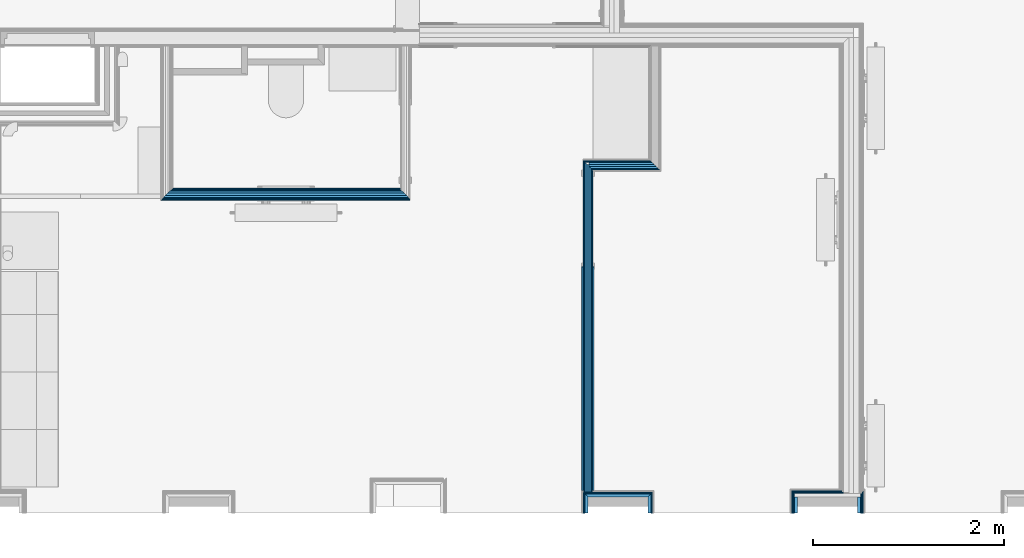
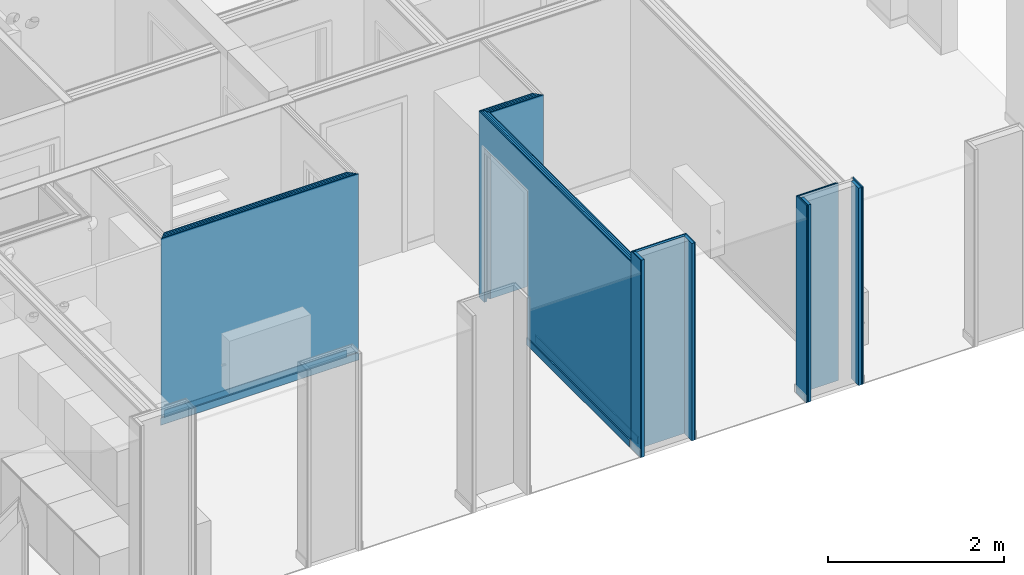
# One storey, part 19 of 82: 33 building element parts, 2 openings, 9 elements without a shape of their own.
"""IFC2X3 building model written with IfcOpenShell, lengths in metres."""

from ifc_helpers import new_model, entity, si_unit, converted_unit, derived_unit, money_unit, direction, frame, frame_2d, origin_with_axes, place, context, subcontext, project, spatial, polyline, rectangle, outline, extrude, material, type_object, element, aggregate, save


model = new_model("IFC2X3")

# Units and contexts
model_context = context("Model", 3, precision=1e-05, world=origin_with_axes(), true_north=direction((0.0, 1.0)))
body_context = subcontext(model_context, "Body", "Model", "MODEL_VIEW", scale=1.0)
ifc_project = project(units=[si_unit("LENGTHUNIT", "METRE"), si_unit("AREAUNIT", "SQUARE_METRE"), si_unit("VOLUMEUNIT", "CUBIC_METRE"), si_unit("ABSORBEDDOSEUNIT", "GRAY"), si_unit("AMOUNTOFSUBSTANCEUNIT", "MOLE"), si_unit("DOSEEQUIVALENTUNIT", "SIEVERT"), si_unit("ELECTRICCAPACITANCEUNIT", "FARAD"), si_unit("ELECTRICCHARGEUNIT", "COULOMB"), si_unit("ELECTRICCONDUCTANCEUNIT", "SIEMENS"), si_unit("ELECTRICCURRENTUNIT", "AMPERE"), si_unit("ELECTRICRESISTANCEUNIT", "OHM"), si_unit("ELECTRICVOLTAGEUNIT", "VOLT"), si_unit("ENERGYUNIT", "JOULE"), si_unit("FORCEUNIT", "NEWTON"), si_unit("FREQUENCYUNIT", "HERTZ"), si_unit("ILLUMINANCEUNIT", "LUX"), si_unit("INDUCTANCEUNIT", "HENRY"), si_unit("LUMINOUSFLUXUNIT", "LUMEN"), si_unit("LUMINOUSINTENSITYUNIT", "CANDELA"), si_unit("MAGNETICFLUXDENSITYUNIT", "TESLA"), si_unit("MAGNETICFLUXUNIT", "WEBER"), si_unit("MASSUNIT", "GRAM"), converted_unit("PLANEANGLEUNIT", "degree", entity("IfcReal", 0.0174532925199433), si_unit("PLANEANGLEUNIT", "RADIAN"), dimensions=[0, 0, 0, 0, 0, 0, 0]), si_unit("POWERUNIT", "WATT"), si_unit("PRESSUREUNIT", "PASCAL"), si_unit("RADIOACTIVITYUNIT", "BECQUEREL"), si_unit("SOLIDANGLEUNIT", "STERADIAN"), si_unit("THERMODYNAMICTEMPERATUREUNIT", "KELVIN"), si_unit("TIMEUNIT", "SECOND"), derived_unit("ACCELERATIONUNIT", [(si_unit("LENGTHUNIT", "METRE"), 1), (si_unit("TIMEUNIT", "SECOND"), -2)]), derived_unit("ANGULARVELOCITYUNIT", [(converted_unit("PLANEANGLEUNIT", "degree", entity("IfcReal", 0.0174532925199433), si_unit("PLANEANGLEUNIT", "RADIAN"), dimensions=[0, 0, 0, 0, 0, 0, 0]), 1), (si_unit("TIMEUNIT", "SECOND"), -1)]), derived_unit("CURVATUREUNIT", [(converted_unit("PLANEANGLEUNIT", "degree", entity("IfcReal", 0.0174532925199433), si_unit("PLANEANGLEUNIT", "RADIAN"), dimensions=[0, 0, 0, 0, 0, 0, 0]), 1), (si_unit("LENGTHUNIT", "METRE"), -1)]), derived_unit("DYNAMICVISCOSITYUNIT", [(si_unit("PRESSUREUNIT", "PASCAL"), 1), (si_unit("TIMEUNIT", "SECOND"), 1)]), derived_unit("HEATFLUXDENSITYUNIT", [(si_unit("POWERUNIT", "WATT"), 1), (si_unit("LENGTHUNIT", "METRE"), -2)]), derived_unit("HEATINGVALUEUNIT", [(si_unit("ENERGYUNIT", "JOULE"), 1), (si_unit("MASSUNIT", "GRAM"), -1)]), derived_unit("INTEGERCOUNTRATEUNIT", [(si_unit("TIMEUNIT", "SECOND"), -1)]), derived_unit("IONCONCENTRATIONUNIT", [(si_unit("MASSUNIT", "GRAM"), 1), (si_unit("VOLUMEUNIT", "CUBIC_METRE"), -1)]), derived_unit("ISOTHERMALMOISTURECAPACITYUNIT", [(si_unit("VOLUMEUNIT", "CUBIC_METRE"), 1), (si_unit("MASSUNIT", "GRAM"), -1)]), derived_unit("KINEMATICVISCOSITYUNIT", [(si_unit("AREAUNIT", "SQUARE_METRE"), 1), (si_unit("TIMEUNIT", "SECOND"), -1)]), derived_unit("LINEARFORCEUNIT", [(si_unit("FORCEUNIT", "NEWTON"), 1), (si_unit("LENGTHUNIT", "METRE"), -1)]), derived_unit("LINEARMOMENTUNIT", [(si_unit("FORCEUNIT", "NEWTON"), 1), (si_unit("LENGTHUNIT", "METRE"), -1)]), derived_unit("LINEARSTIFFNESSUNIT", [(si_unit("FORCEUNIT", "NEWTON"), 1), (si_unit("LENGTHUNIT", "METRE"), -1)]), derived_unit("LINEARVELOCITYUNIT", [(si_unit("LENGTHUNIT", "METRE"), 1), (si_unit("TIMEUNIT", "SECOND"), -1)]), derived_unit("LUMINOUSINTENSITYDISTRIBUTIONUNIT", [(si_unit("LUMINOUSINTENSITYUNIT", "CANDELA"), 1), (si_unit("LUMINOUSFLUXUNIT", "LUMEN"), -1)]), derived_unit("MASSDENSITYUNIT", [(si_unit("MASSUNIT", "GRAM"), 1), (si_unit("VOLUMEUNIT", "CUBIC_METRE"), -1)]), derived_unit("MASSFLOWRATEUNIT", [(si_unit("MASSUNIT", "GRAM"), 1), (si_unit("TIMEUNIT", "SECOND"), -1)]), derived_unit("MASSPERLENGTHUNIT", [(si_unit("MASSUNIT", "GRAM"), 1), (si_unit("LENGTHUNIT", "METRE"), -1)]), derived_unit("MODULUSOFELASTICITYUNIT", [(si_unit("FORCEUNIT", "NEWTON"), 1), (si_unit("AREAUNIT", "SQUARE_METRE"), -1)]), derived_unit("MODULUSOFLINEARSUBGRADEREACTIONUNIT", [(si_unit("FORCEUNIT", "NEWTON"), 1), (si_unit("LENGTHUNIT", "METRE"), -2)]), derived_unit("MODULUSOFROTATIONALSUBGRADEREACTIONUNIT", [(si_unit("FORCEUNIT", "NEWTON"), 1), (si_unit("LENGTHUNIT", "METRE"), 1)]), derived_unit("MODULUSOFSUBGRADEREACTIONUNIT", [(si_unit("FORCEUNIT", "NEWTON"), 1), (si_unit("VOLUMEUNIT", "CUBIC_METRE"), -1)]), derived_unit("MOISTUREDIFFUSIVITYUNIT", [(si_unit("VOLUMEUNIT", "CUBIC_METRE"), 1), (si_unit("TIMEUNIT", "SECOND"), -1)]), derived_unit("MOLECULARWEIGHTUNIT", [(si_unit("MASSUNIT", "GRAM"), 1), (si_unit("AMOUNTOFSUBSTANCEUNIT", "MOLE"), -1)]), derived_unit("PLANARFORCEUNIT", [(si_unit("FORCEUNIT", "NEWTON"), 1), (si_unit("LENGTHUNIT", "METRE"), -2)]), derived_unit("ROTATIONALFREQUENCYUNIT", [(si_unit("TIMEUNIT", "SECOND"), -1)]), derived_unit("ROTATIONALMASSUNIT", [(si_unit("MASSUNIT", "GRAM"), 1), (si_unit("LENGTHUNIT", "METRE"), 2)]), derived_unit("ROTATIONALSTIFFNESSUNIT", [(si_unit("FORCEUNIT", "NEWTON"), 1), (si_unit("LENGTHUNIT", "METRE"), 1), (converted_unit("PLANEANGLEUNIT", "degree", entity("IfcReal", 0.0174532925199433), si_unit("PLANEANGLEUNIT", "RADIAN"), dimensions=[0, 0, 0, 0, 0, 0, 0]), -1)]), derived_unit("SECTIONAREAINTEGRALUNIT", [(si_unit("LENGTHUNIT", "METRE"), 5)]), derived_unit("SECTIONMODULUSUNIT", [(si_unit("LENGTHUNIT", "METRE"), 3)]), derived_unit("SHEARMODULUSUNIT", [(si_unit("FORCEUNIT", "NEWTON"), 1), (si_unit("AREAUNIT", "SQUARE_METRE"), -1)]), derived_unit("SOUNDPOWERUNIT", [(si_unit("ENERGYUNIT", "JOULE"), 1), (si_unit("TIMEUNIT", "SECOND"), -1)]), derived_unit("SPECIFICHEATCAPACITYUNIT", [(si_unit("FORCEUNIT", "NEWTON"), 1), (si_unit("MASSUNIT", "GRAM"), -1), (si_unit("THERMODYNAMICTEMPERATUREUNIT", "KELVIN"), -1)]), derived_unit("TEMPERATUREGRADIENTUNIT", [(si_unit("THERMODYNAMICTEMPERATUREUNIT", "KELVIN"), 1), (si_unit("LENGTHUNIT", "METRE"), -1)]), derived_unit("THERMALADMITTANCEUNIT", [(si_unit("POWERUNIT", "WATT"), 1), (si_unit("AREAUNIT", "SQUARE_METRE"), -1), (si_unit("THERMODYNAMICTEMPERATUREUNIT", "KELVIN"), -1)]), derived_unit("THERMALCONDUCTANCEUNIT", [(si_unit("POWERUNIT", "WATT"), 1), (si_unit("LENGTHUNIT", "METRE"), -1), (si_unit("THERMODYNAMICTEMPERATUREUNIT", "KELVIN"), -1)]), derived_unit("THERMALEXPANSIONCOEFFICIENTUNIT", [(si_unit("THERMODYNAMICTEMPERATUREUNIT", "KELVIN"), -1)]), derived_unit("THERMALRESISTANCEUNIT", [(si_unit("AREAUNIT", "SQUARE_METRE"), 1), (si_unit("POWERUNIT", "WATT"), -1)]), derived_unit("THERMALTRANSMITTANCEUNIT", [(si_unit("POWERUNIT", "WATT"), 1), (si_unit("AREAUNIT", "SQUARE_METRE"), -1), (si_unit("THERMODYNAMICTEMPERATUREUNIT", "KELVIN"), -1)]), derived_unit("TORQUEUNIT", [(si_unit("FORCEUNIT", "NEWTON"), 1), (si_unit("LENGTHUNIT", "METRE"), 1)]), derived_unit("VAPORPERMEABILITYUNIT", [(si_unit("MASSUNIT", "GRAM"), 1), (si_unit("TIMEUNIT", "SECOND"), -1)]), derived_unit("VOLUMETRICFLOWRATEUNIT", [(si_unit("VOLUMEUNIT", "CUBIC_METRE"), 1), (si_unit("TIMEUNIT", "SECOND"), -1)]), derived_unit("WARPINGCONSTANTUNIT", [(si_unit("LENGTHUNIT", "METRE"), 6)]), derived_unit("WARPINGMOMENTUNIT", [(si_unit("FORCEUNIT", "NEWTON"), 1), (si_unit("LENGTHUNIT", "METRE"), 2)]), money_unit("GBP")], contexts=[model_context])

# Site, building, storey
site_placement = place(None, origin_with_axes())
site = spatial("IfcSite", under=ifc_project, at=site_placement, Name="Site", CompositionType="ELEMENT")
building_placement = place(site_placement, origin_with_axes())
building = spatial("IfcBuilding", under=site, at=building_placement, Name="Building01", CompositionType="ELEMENT")
storey_placement = place(building_placement, frame((0.0, 0.0, 12.13), z_axis=(0.0, 0.0, 1.0), x_axis=(1.0, 0.0, 0.0)))
storey = spatial("IfcBuildingStorey", under=building, at=storey_placement, Name="3F", CompositionType="ELEMENT", Elevation=12.13)

# Wall, building element parts
wall_type_1 = type_object("IfcWallType", Name="SHE_A-Walls_Type06d_ExternalWallInsulation_48mm", PredefinedType="NOTDEFINED")
wall_1_placement = place(storey_placement, frame((19.763, 0.1, 0.0), z_axis=(0.0, 0.0, 1.0), x_axis=(0.0, 1.0, 0.0)))
wall_1 = element("IfcWall", 1, at=wall_1_placement, inside=storey, type_object=wall_type_1, Name="6D", ObjectType="SHE_A-Walls_Type06d_ExternalWallInsulation_48mm")
ifc_material_1 = material(Name="A_BSUK_Insulation")
placement_1 = place(wall_1_placement, origin_with_axes())
building_element_part_1 = element("IfcBuildingElementPart", 2, at=placement_1, material=ifc_material_1, Name="1", context=body_context, shape_type="SweptSolid", body=[
    extrude(outline(polyline([(0.206, 0.036), (0.0, 0.036), (0.0, 0.0), (0.17, 0.0), (0.206, 0.036)])), origin_with_axes(), (0.0, 0.0, 1.0), 2.74),
])
ifc_material_2 = material(Name="A_BSUK_WallInternal_Finishes_Plasterboard")
building_element_part_2 = element("IfcBuildingElementPart", 3, at=placement_1, material=ifc_material_2, Name="2", context=body_context, shape_type="SweptSolid", body=[
    extrude(outline(polyline([(0.218, 0.048), (0.0, 0.048), (0.0, 0.035), (0.205, 0.035), (0.218, 0.048)])), origin_with_axes(), (0.0, 0.0, 1.0), 2.74),
])
aggregate(wall_1, [building_element_part_1, building_element_part_2])

wall_2_placement = place(storey_placement, frame((20.387, 0.27, 0.0), z_axis=(0.0, 0.0, 1.0), x_axis=(0.0, -1.0, 0.0)))
wall_2 = element("IfcWall", 4, at=wall_2_placement, inside=storey, type_object=wall_type_1, Name="6D", ObjectType="SHE_A-Walls_Type06d_ExternalWallInsulation_48mm")
placement_2 = place(wall_2_placement, origin_with_axes())
building_element_part_3 = element("IfcBuildingElementPart", 5, at=placement_2, material=ifc_material_1, Name="1", context=body_context, shape_type="SweptSolid", body=[
    extrude(outline(polyline([(-0.036, 0.036), (0.0, 0.0), (0.17, 0.0), (0.17, 0.036), (-0.036, 0.036)])), origin_with_axes(), (0.0, 0.0, 1.0), 2.74),
])
building_element_part_4 = element("IfcBuildingElementPart", 6, at=placement_2, material=ifc_material_2, Name="2", context=body_context, shape_type="SweptSolid", body=[
    extrude(outline(polyline([(-0.048, 0.048), (-0.035, 0.035), (0.17, 0.035), (0.17, 0.048), (-0.048, 0.048)])), origin_with_axes(), (0.0, 0.0, 1.0), 2.74),
])
aggregate(wall_2, [building_element_part_3, building_element_part_4])

# Wall, openings, building element parts
wall_type_2 = type_object("IfcWallType", Name="SHE_A-Walls_Type05a_Partition_95mm_tall", PredefinedType="NOTDEFINED")
wall_3_placement = place(storey_placement, frame((19.75, 3.745, 0.0), z_axis=(0.0, 0.0, 1.0), x_axis=(0.0, -1.0, 0.0)))
wall_3 = element("IfcWall", 7, at=wall_3_placement, inside=storey, type_object=wall_type_2, Name="5A", ObjectType="SHE_A-Walls_Type05a_Partition_95mm_tall")
opening_1_placement = place(wall_3_placement, frame((0.087, -0.035, 0.0), z_axis=(0.0, 0.0, 1.0), x_axis=(1.0, 0.0, 0.0)))
element("IfcOpeningElement", 8, at=opening_1_placement, cuts=wall_3, Name="Opening", ObjectType="Recess", context=body_context, shape_type="SweptSolid", body=[
    extrude(rectangle(XDim=2.142, YDim=0.984, at=frame_2d((-0.492, 1.071), x_axis=(0.0, 1.0))), frame((0.0, 0.0, 0.0), z_axis=(0.0, 1.0, 0.0), x_axis=(-1.0, 0.0, 0.0)), (0.0, 0.0, 1.0), 0.035),
])
opening_2_placement = place(wall_3_placement, frame((0.099, -0.05, 0.0), z_axis=(0.0, 0.0, 1.0), x_axis=(1.0, 0.0, 0.0)))
element("IfcOpeningElement", 9, at=opening_2_placement, cuts=wall_3, Name="Opening", ObjectType="Opening", context=body_context, shape_type="SweptSolid", body=[
    extrude(rectangle(XDim=0.9, YDim=2.127, at=frame_2d((-0.45, 1.0635), x_axis=(-1.0, 0.0))), frame((0.0, 0.0, 0.0), z_axis=(0.0, 1.0, 0.0), x_axis=(-1.0, 0.0, 0.0)), (0.0, 0.0, 1.0), 0.125),
    extrude(rectangle(XDim=0.9, YDim=2.142, at=frame_2d((-0.45, 1.056), x_axis=(-1.0, 0.0))), frame((0.0, 0.015, 0.0), z_axis=(0.0, 1.0, 0.0), x_axis=(-1.0, 0.0, 0.0)), (0.0, 0.0, 1.0), 0.012),
    extrude(rectangle(XDim=2.142, YDim=0.984, at=frame_2d((-0.48, 1.071), x_axis=(0.0, -1.0))), frame((0.0, 0.0, 0.0), z_axis=(0.0, 1.0, 0.0), x_axis=(-1.0, 0.0, 0.0)), (0.0, 0.0, 1.0), 0.015),
    extrude(rectangle(XDim=0.9, YDim=2.142, at=frame_2d((-0.45, 1.056), x_axis=(-1.0, 0.0))), frame((0.0, 0.027, 0.0), z_axis=(0.0, 1.0, 0.0), x_axis=(-1.0, 0.0, 0.0)), (0.0, 0.0, 1.0), 0.023),
    extrude(outline(polyline([(0.012, 2.127), (0.012, 2.142), (-0.972, 2.142), (-0.972, 0.0), (-0.494219, 0.0), (-0.494219, -0.015), (0.589781, -0.015), (0.589781, 2.127), (0.012, 2.127)])), frame((0.0, 0.05, 0.0), z_axis=(0.0, 1.0, 0.0), x_axis=(-1.0, 0.0, 0.0)), (0.0, 0.0, 1.0), 0.025),
    extrude(outline(polyline([(0.012, 2.127), (0.012, 2.142), (-0.972, 2.142), (-0.972, 0.0), (-0.494219, 0.0), (-0.494219, -0.015), (0.589781, -0.015), (0.589781, 2.127), (0.012, 2.127)])), frame((0.0, 0.075, 0.0), z_axis=(0.0, 1.0, 0.0), x_axis=(-1.0, 0.0, 0.0)), (0.0, 0.0, 1.0), 0.023),
    extrude(outline(polyline([(-0.972, 2.142), (-0.972, 0.0), (-0.9, 0.0), (-0.9, -0.015), (0.0, -0.015), (0.0, 0.0), (0.589781, 0.0), (0.589781, 2.142), (-0.972, 2.142)])), frame((0.0, 0.098, 0.0), z_axis=(0.0, 1.0, 0.0), x_axis=(-1.0, 0.0, 0.0)), (0.0, 0.0, 1.0), 0.012),
    extrude(rectangle(XDim=2.142, YDim=0.984, at=frame_2d((-0.48, 1.071), x_axis=(0.0, -1.0))), frame((0.0, 0.11, 0.0), z_axis=(0.0, 1.0, 0.0), x_axis=(-1.0, 0.0, 0.0)), (0.0, 0.0, 1.0), 0.015),
])
ifc_material_3 = material(Name="A_BSUK_Walls_Timber")
placement_3 = place(wall_3_placement, origin_with_axes())
building_element_part_5 = element("IfcBuildingElementPart", 10, at=placement_3, material=ifc_material_3, Name="1", context=body_context, shape_type="SweptSolid", body=[
    extrude(rectangle(XDim=2.344, YDim=0.015, at=frame_2d((2.24, -0.0425), x_axis=(-1.0, 0.0))), frame((0.0, 0.0, 0.015), z_axis=(0.0, 0.0, 1.0), x_axis=(1.0, 0.0, 0.0)), (0.0, 0.0, 1.0), 0.1),
])
building_element_part_6 = element("IfcBuildingElementPart", 11, at=placement_3, material=ifc_material_2, Name="2", context=body_context, shape_type="SweptSolid", body=[
    extrude(outline(polyline([(3.427, -0.023), (-0.023, -0.023), (-0.035, -0.035), (3.427, -0.035), (3.427, -0.023)])), origin_with_axes(), (0.0, 0.0, 1.0), 2.59),
])
ifc_material_4 = material(Name="Air Cavity")
building_element_part_7 = element("IfcBuildingElementPart", 12, at=placement_3, material=ifc_material_4, Name="3", context=body_context, shape_type="SweptSolid", body=[
    extrude(outline(polyline([(3.427, 0.0), (0.0, 0.0), (-0.023, -0.023), (3.427, -0.023), (3.427, 0.0)])), origin_with_axes(), (0.0, 0.0, 1.0), 2.59),
])
building_element_part_8 = element("IfcBuildingElementPart", 13, at=placement_3, material=ifc_material_1, Name="4", context=body_context, shape_type="SweptSolid", body=[
    extrude(rectangle(XDim=3.427, YDim=0.025, at=frame_2d((1.7135, 0.0125), x_axis=(-1.0, 0.0))), origin_with_axes(), (0.0, 0.0, 1.0), 2.59),
])
building_element_part_9 = element("IfcBuildingElementPart", 14, at=placement_3, material=ifc_material_4, Name="5", context=body_context, shape_type="SweptSolid", body=[
    extrude(rectangle(XDim=3.427, YDim=0.023, at=frame_2d((1.7135, 0.0365), x_axis=(-1.0, 0.0))), origin_with_axes(), (0.0, 0.0, 1.0), 2.59),
])
building_element_part_10 = element("IfcBuildingElementPart", 15, at=placement_3, material=ifc_material_2, Name="6", context=body_context, shape_type="SweptSolid", body=[
    extrude(outline(polyline([(3.427, 0.06), (0.06, 0.06), (0.048, 0.048), (3.427, 0.048), (3.427, 0.06)])), origin_with_axes(), (0.0, 0.0, 1.0), 2.59),
])
building_element_part_11 = element("IfcBuildingElementPart", 16, at=placement_3, material=ifc_material_3, Name="7", context=body_context, shape_type="SweptSolid", body=[
    extrude(rectangle(XDim=2.344, YDim=0.015, at=frame_2d((2.24, 0.0675), x_axis=(-1.0, 0.0))), frame((0.0, 0.0, 0.015), z_axis=(0.0, 0.0, 1.0), x_axis=(1.0, 0.0, 0.0)), (0.0, 0.0, 1.0), 0.1),
])
aggregate(wall_3, [building_element_part_5, building_element_part_6, building_element_part_7, building_element_part_8, building_element_part_9, building_element_part_10, building_element_part_11])

# Wall, building element parts
wall_4_placement = place(storey_placement, frame((19.775, 3.72, 0.0), z_axis=(0.0, 0.0, 1.0), x_axis=(1.0, 0.0, 0.0)))
wall_4 = element("IfcWall", 17, at=wall_4_placement, inside=storey, type_object=wall_type_2, Name="5A", ObjectType="SHE_A-Walls_Type05a_Partition_95mm_tall")
placement_4 = place(wall_4_placement, origin_with_axes())
building_element_part_12 = element("IfcBuildingElementPart", 18, at=placement_4, material=ifc_material_2, Name="2", context=body_context, shape_type="SweptSolid", body=[
    extrude(outline(polyline([(0.723, -0.023), (0.023, -0.023), (0.035, -0.035), (0.735, -0.035), (0.723, -0.023)])), origin_with_axes(), (0.0, 0.0, 1.0), 2.59),
])
building_element_part_13 = element("IfcBuildingElementPart", 19, at=placement_4, material=ifc_material_4, Name="3", context=body_context, shape_type="SweptSolid", body=[
    extrude(outline(polyline([(0.7, 0.0), (0.0, 0.0), (0.023, -0.023), (0.723, -0.023), (0.7, 0.0)])), origin_with_axes(), (0.0, 0.0, 1.0), 2.59),
])
building_element_part_14 = element("IfcBuildingElementPart", 20, at=placement_4, material=ifc_material_1, Name="4", context=body_context, shape_type="SweptSolid", body=[
    extrude(outline(polyline([(0.675, 0.025), (0.0, 0.025), (0.0, 0.0), (0.7, 0.0), (0.675, 0.025)])), origin_with_axes(), (0.0, 0.0, 1.0), 2.59),
])
building_element_part_15 = element("IfcBuildingElementPart", 21, at=placement_4, material=ifc_material_4, Name="5", context=body_context, shape_type="SweptSolid", body=[
    extrude(outline(polyline([(0.652, 0.048), (0.0, 0.048), (0.0, 0.025), (0.675, 0.025), (0.652, 0.048)])), origin_with_axes(), (0.0, 0.0, 1.0), 2.59),
])
building_element_part_16 = element("IfcBuildingElementPart", 22, at=placement_4, material=ifc_material_2, Name="6", context=body_context, shape_type="SweptSolid", body=[
    extrude(outline(polyline([(0.64, 0.06), (-0.06, 0.06), (-0.048, 0.048), (0.652, 0.048), (0.64, 0.06)])), origin_with_axes(), (0.0, 0.0, 1.0), 2.59),
])
aggregate(wall_4, [building_element_part_12, building_element_part_13, building_element_part_14, building_element_part_15, building_element_part_16])

wall_5_placement = place(storey_placement, frame((19.763, 0.27, 0.0), z_axis=(0.0, 0.0, 1.0), x_axis=(1.0, 0.0, 0.0)))
wall_5 = element("IfcWall", 23, at=wall_5_placement, inside=storey, type_object=wall_type_1, Name="6D", ObjectType="SHE_A-Walls_Type06d_ExternalWallInsulation_48mm")
placement_5 = place(wall_5_placement, origin_with_axes())
building_element_part_17 = element("IfcBuildingElementPart", 24, at=placement_5, material=ifc_material_1, Name="1", context=body_context, shape_type="SweptSolid", body=[
    extrude(outline(polyline([(0.66, 0.036), (-0.036, 0.036), (0.0, 0.0), (0.624, 0.0), (0.66, 0.036)])), origin_with_axes(), (0.0, 0.0, 1.0), 2.74),
])
building_element_part_18 = element("IfcBuildingElementPart", 25, at=placement_5, material=ifc_material_2, Name="2", context=body_context, shape_type="SweptSolid", body=[
    extrude(outline(polyline([(0.672, 0.048), (-0.048, 0.048), (-0.035, 0.035), (0.659, 0.035), (0.672, 0.048)])), origin_with_axes(), (0.0, 0.0, 1.0), 2.74),
])
aggregate(wall_5, [building_element_part_17, building_element_part_18])

wall_6_placement = place(storey_placement, frame((17.8675, 3.42, 0.0), z_axis=(0.0, 0.0, 1.0), x_axis=(-1.0, 0.0, 0.0)))
wall_6 = element("IfcWall", 26, at=wall_6_placement, inside=storey, type_object=wall_type_2, Name="5A", ObjectType="SHE_A-Walls_Type05a_Partition_95mm_tall")
placement_6 = place(wall_6_placement, origin_with_axes())
building_element_part_19 = element("IfcBuildingElementPart", 27, at=placement_6, material=ifc_material_3, Name="1", context=body_context, shape_type="SweptSolid", body=[
    extrude(outline(polyline([(2.46, -0.06), (0.06, -0.06), (0.06, -0.075), (2.445, -0.075), (2.46, -0.06)])), frame((0.0, 0.0, 0.015), z_axis=(0.0, 0.0, 1.0), x_axis=(1.0, 0.0, 0.0)), (0.0, 0.0, 1.0), 0.1),
])
building_element_part_20 = element("IfcBuildingElementPart", 28, at=placement_6, material=ifc_material_2, Name="2", context=body_context, shape_type="SweptSolid", body=[
    extrude(outline(polyline([(2.472, -0.048), (0.048, -0.048), (0.06, -0.06), (2.46, -0.06), (2.472, -0.048)])), origin_with_axes(), (0.0, 0.0, 1.0), 2.59),
])
building_element_part_21 = element("IfcBuildingElementPart", 29, at=placement_6, material=ifc_material_4, Name="3", context=body_context, shape_type="SweptSolid", body=[
    extrude(outline(polyline([(2.495, -0.025), (0.025, -0.025), (0.048, -0.048), (2.472, -0.048), (2.495, -0.025)])), origin_with_axes(), (0.0, 0.0, 1.0), 2.59),
])
building_element_part_22 = element("IfcBuildingElementPart", 30, at=placement_6, material=ifc_material_1, Name="4", context=body_context, shape_type="SweptSolid", body=[
    extrude(outline(polyline([(2.52, 0.0), (0.0, 0.0), (0.025, -0.025), (2.495, -0.025), (2.52, 0.0)])), origin_with_axes(), (0.0, 0.0, 1.0), 2.59),
])
building_element_part_23 = element("IfcBuildingElementPart", 31, at=placement_6, material=ifc_material_4, Name="5", context=body_context, shape_type="SweptSolid", body=[
    extrude(outline(polyline([(2.543, 0.023), (-0.023, 0.023), (0.0, 0.0), (2.52, 0.0), (2.543, 0.023)])), origin_with_axes(), (0.0, 0.0, 1.0), 2.59),
])
building_element_part_24 = element("IfcBuildingElementPart", 32, at=placement_6, material=ifc_material_2, Name="6", context=body_context, shape_type="SweptSolid", body=[
    extrude(outline(polyline([(2.555, 0.035), (-0.035, 0.035), (-0.023, 0.023), (2.543, 0.023), (2.555, 0.035)])), origin_with_axes(), (0.0, 0.0, 1.0), 2.59),
])
building_element_part_25 = element("IfcBuildingElementPart", 33, at=placement_6, material=ifc_material_3, Name="7", context=body_context, shape_type="SweptSolid", body=[
    extrude(outline(polyline([(2.57, 0.05), (-0.035, 0.05), (-0.035, 0.035), (2.555, 0.035), (2.57, 0.05)])), frame((0.0, 0.0, 0.015), z_axis=(0.0, 0.0, 1.0), x_axis=(1.0, 0.0, 0.0)), (0.0, 0.0, 1.0), 0.1),
])
aggregate(wall_6, [building_element_part_19, building_element_part_20, building_element_part_21, building_element_part_22, building_element_part_23, building_element_part_24, building_element_part_25])

wall_type_3 = type_object("IfcWallType", Name="SHE_A-Walls_Type06f_ExternalWallInsulation_48+15mm", PredefinedType="NOTDEFINED")
wall_7_placement = place(storey_placement, frame((21.953, 0.1, 0.0), z_axis=(0.0, 0.0, 1.0), x_axis=(0.0, -1.0, 0.0)))
wall_7 = element("IfcWall", 34, at=wall_7_placement, inside=storey, type_object=wall_type_3, Name="6F", ObjectType="SHE_A-Walls_Type06f_ExternalWallInsulation_48+15mm")
placement_7 = place(wall_7_placement, origin_with_axes())
building_element_part_26 = element("IfcBuildingElementPart", 35, at=placement_7, material=ifc_material_2, Name="2", context=body_context, shape_type="SweptSolid", body=[
    extrude(outline(polyline([(-0.233, -0.063), (0.0, -0.063), (0.0, -0.048), (-0.218, -0.048), (-0.233, -0.063)])), origin_with_axes(), (0.0, 0.0, 1.0), 2.74),
])
building_element_part_27 = element("IfcBuildingElementPart", 36, at=placement_7, material=ifc_material_2, Name="3", context=body_context, shape_type="SweptSolid", body=[
    extrude(rectangle(XDim=0.206, YDim=0.012, at=frame_2d((-0.103, -0.042), x_axis=(1.0, 0.0))), origin_with_axes(), (0.0, 0.0, 1.0), 2.74),
])
building_element_part_28 = element("IfcBuildingElementPart", 37, at=placement_7, material=ifc_material_1, Name="4", context=body_context, shape_type="SweptSolid", body=[
    extrude(rectangle(XDim=0.17, YDim=0.036, at=frame_2d((-0.085, -0.018), x_axis=(1.0, 0.0))), origin_with_axes(), (0.0, 0.0, 1.0), 2.74),
])
aggregate(wall_7, [building_element_part_26, building_element_part_27, building_element_part_28])

wall_8_placement = place(storey_placement, frame((22.577124, 0.1, 0.0), z_axis=(0.0, 0.0, 1.0), x_axis=(0.0, -1.0, 0.0)))
wall_8 = element("IfcWall", 38, at=wall_8_placement, inside=storey, type_object=wall_type_3, Name="6F", ObjectType="SHE_A-Walls_Type06f_ExternalWallInsulation_48+15mm")
placement_8 = place(wall_8_placement, origin_with_axes())
building_element_part_29 = element("IfcBuildingElementPart", 39, at=placement_8, material=ifc_material_1, Name="1", context=body_context, shape_type="SweptSolid", body=[
    extrude(rectangle(XDim=0.17, YDim=0.036, at=frame_2d((-0.085, 0.018), x_axis=(1.0, 0.0))), origin_with_axes(), (0.0, 0.0, 1.0), 2.74),
])
building_element_part_30 = element("IfcBuildingElementPart", 40, at=placement_8, material=ifc_material_2, Name="2", context=body_context, shape_type="SweptSolid", body=[
    extrude(rectangle(XDim=0.206, YDim=0.012, at=frame_2d((-0.103, 0.042), x_axis=(1.0, 0.0))), origin_with_axes(), (0.0, 0.0, 1.0), 2.74),
])
building_element_part_31 = element("IfcBuildingElementPart", 41, at=placement_8, material=ifc_material_2, Name="3", context=body_context, shape_type="SweptSolid", body=[
    extrude(outline(polyline([(-0.218, 0.048), (0.0, 0.048), (0.0, 0.063), (-0.233, 0.063), (-0.218, 0.048)])), origin_with_axes(), (0.0, 0.0, 1.0), 2.74),
])
aggregate(wall_8, [building_element_part_29, building_element_part_30, building_element_part_31])

wall_9_placement = place(storey_placement, frame((22.613124, 0.27, 0.0), z_axis=(0.0, 0.0, 1.0), x_axis=(-1.0, 0.0, 0.0)))
wall_9 = element("IfcWall", 42, at=wall_9_placement, inside=storey, type_object=wall_type_3, Name="6F", ObjectType="SHE_A-Walls_Type06f_ExternalWallInsulation_48+15mm")
placement_9 = place(wall_9_placement, origin_with_axes())
building_element_part_32 = element("IfcBuildingElementPart", 43, at=placement_9, material=ifc_material_2, Name="4", context=body_context, shape_type="SweptSolid", body=[
    extrude(outline(polyline([(0.708124, -0.048), (0.198124, -0.048), (0.198124, -0.063), (0.723124, -0.063), (0.708124, -0.048)])), origin_with_axes(), (0.0, 0.0, 1.0), 2.74),
])
building_element_part_33 = element("IfcBuildingElementPart", 44, at=placement_9, material=ifc_material_2, Name="6", context=body_context, shape_type="SweptSolid", body=[
    extrude(rectangle(XDim=0.525, YDim=0.012, at=frame_2d((0.445624, -0.042), x_axis=(-1.0, 0.0))), origin_with_axes(), (0.0, 0.0, 1.0), 2.74),
])
aggregate(wall_9, [building_element_part_32, building_element_part_33])

save(model, "model.ifc")
